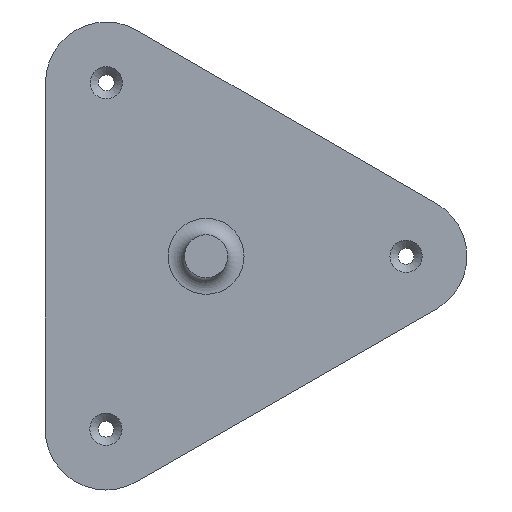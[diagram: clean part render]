
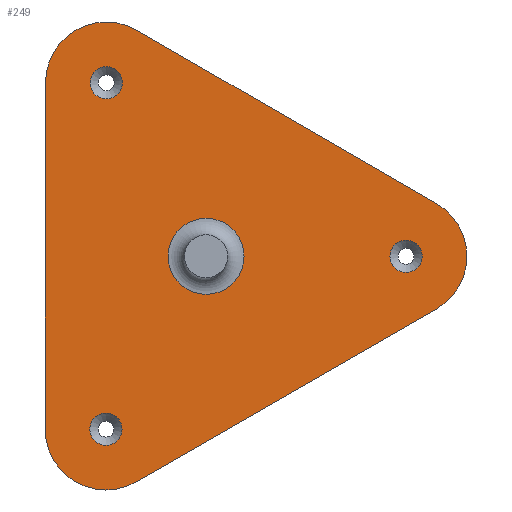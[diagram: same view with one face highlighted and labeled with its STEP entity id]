
A CAD part, front view. The second image highlights one B-rep face of the part: STEP entity #249.
In plain terms, the highlighted planar face has unit normal (0, -1, 0).
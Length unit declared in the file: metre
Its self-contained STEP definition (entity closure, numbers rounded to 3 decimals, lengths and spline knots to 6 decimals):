
#23=LINE('',#411,#35);
#24=LINE('',#415,#36);
#25=LINE('',#419,#37);
#35=VECTOR('',#328,1.);
#36=VECTOR('',#331,1.);
#37=VECTOR('',#334,1.);
#47=ORIENTED_EDGE('',*,*,#107,.T.);
#48=ORIENTED_EDGE('',*,*,#108,.T.);
#49=ORIENTED_EDGE('',*,*,#109,.T.);
#50=ORIENTED_EDGE('',*,*,#110,.T.);
#51=ORIENTED_EDGE('',*,*,#111,.T.);
#52=ORIENTED_EDGE('',*,*,#112,.T.);
#53=ORIENTED_EDGE('',*,*,#113,.F.);
#54=ORIENTED_EDGE('',*,*,#114,.F.);
#55=ORIENTED_EDGE('',*,*,#115,.F.);
#56=ORIENTED_EDGE('',*,*,#116,.F.);
#107=EDGE_CURVE('',#137,#137,#161,.F.);
#108=EDGE_CURVE('',#138,#138,#162,.F.);
#109=EDGE_CURVE('',#139,#139,#163,.F.);
#110=EDGE_CURVE('',#140,#140,#164,.F.);
#111=EDGE_CURVE('',#141,#142,#165,.T.);
#112=EDGE_CURVE('',#142,#143,#23,.T.);
#113=EDGE_CURVE('',#144,#143,#166,.T.);
#114=EDGE_CURVE('',#145,#144,#24,.T.);
#115=EDGE_CURVE('',#146,#145,#167,.T.);
#116=EDGE_CURVE('',#141,#146,#25,.T.);
#137=VERTEX_POINT('',#401);
#138=VERTEX_POINT('',#403);
#139=VERTEX_POINT('',#405);
#140=VERTEX_POINT('',#407);
#141=VERTEX_POINT('',#409);
#142=VERTEX_POINT('',#410);
#143=VERTEX_POINT('',#412);
#144=VERTEX_POINT('',#414);
#145=VERTEX_POINT('',#416);
#146=VERTEX_POINT('',#418);
#161=CIRCLE('',#280,0.00295);
#162=CIRCLE('',#281,0.00295);
#163=CIRCLE('',#282,0.00295);
#164=CIRCLE('',#283,0.00695);
#165=CIRCLE('',#284,0.011127);
#166=CIRCLE('',#285,0.011127);
#167=CIRCLE('',#286,0.011127);
#179=EDGE_LOOP('',(#47));
#180=EDGE_LOOP('',(#48));
#181=EDGE_LOOP('',(#49));
#182=EDGE_LOOP('',(#50));
#183=EDGE_LOOP('',(#51,#52,#53,#54,#55,#56));
#211=FACE_BOUND('',#179,.T.);
#212=FACE_BOUND('',#180,.T.);
#213=FACE_BOUND('',#181,.T.);
#214=FACE_BOUND('',#182,.T.);
#215=FACE_BOUND('',#183,.T.);
#243=PLANE('',#279);
#249=ADVANCED_FACE('',(#211,#212,#213,#214,#215),#243,.T.);
#279=AXIS2_PLACEMENT_3D('',#399,#316,#317);
#280=AXIS2_PLACEMENT_3D('',#400,#318,#319);
#281=AXIS2_PLACEMENT_3D('',#402,#320,#321);
#282=AXIS2_PLACEMENT_3D('',#404,#322,#323);
#283=AXIS2_PLACEMENT_3D('',#406,#324,#325);
#284=AXIS2_PLACEMENT_3D('',#408,#326,#327);
#285=AXIS2_PLACEMENT_3D('',#413,#329,#330);
#286=AXIS2_PLACEMENT_3D('',#417,#332,#333);
#316=DIRECTION('',(0.,-1.,0.));
#317=DIRECTION('',(-1.,0.,0.));
#318=DIRECTION('',(0.,-1.,0.));
#319=DIRECTION('',(0.,0.,-1.));
#320=DIRECTION('',(0.,-1.,0.));
#321=DIRECTION('',(0.,0.,-1.));
#322=DIRECTION('',(0.,-1.,0.));
#323=DIRECTION('',(0.,0.,-1.));
#324=DIRECTION('',(0.,-1.,0.));
#325=DIRECTION('',(0.,0.,-1.));
#326=DIRECTION('',(0.,-1.,0.));
#327=DIRECTION('',(0.,0.,-1.));
#328=DIRECTION('',(-0.866,0.,0.501));
#329=DIRECTION('',(0.,1.,0.));
#330=DIRECTION('',(0.,0.,1.));
#331=DIRECTION('',(0.001,0.,1.));
#332=DIRECTION('',(0.,1.,0.));
#333=DIRECTION('',(0.,0.,1.));
#334=DIRECTION('',(-0.867,0.,-0.499));
#399=CARTESIAN_POINT('',(0.013912,-0.08323,0.000055));
#400=CARTESIAN_POINT('',(-0.018256,-0.08323,0.03173));
#401=CARTESIAN_POINT('',(-0.018256,-0.08323,0.02878));
#402=CARTESIAN_POINT('',(-0.018319,-0.08323,-0.031621));
#403=CARTESIAN_POINT('',(-0.018319,-0.08323,-0.034571));
#404=CARTESIAN_POINT('',(0.036576,-0.08323,0.));
#405=CARTESIAN_POINT('',(0.036576,-0.08323,-0.00295));
#406=CARTESIAN_POINT('',(0.,-0.08323,0.));
#407=CARTESIAN_POINT('',(0.,-0.08323,-0.00695));
#408=CARTESIAN_POINT('',(0.036576,-0.08323,0.));
#409=CARTESIAN_POINT('',(0.04213,-0.08323,-0.009642));
#410=CARTESIAN_POINT('',(0.042149,-0.08323,0.009631));
#411=CARTESIAN_POINT('',(0.014733,-0.08323,0.025496));
#412=CARTESIAN_POINT('',(-0.012683,-0.08323,0.041361));
#413=CARTESIAN_POINT('',(-0.018256,-0.08323,0.03173));
#414=CARTESIAN_POINT('',(-0.029383,-0.08323,0.031741));
#415=CARTESIAN_POINT('',(-0.029415,-0.08323,0.000066));
#416=CARTESIAN_POINT('',(-0.029446,-0.08323,-0.03161));
#417=CARTESIAN_POINT('',(-0.018319,-0.08323,-0.031621));
#418=CARTESIAN_POINT('',(-0.012765,-0.08323,-0.041263));
#419=CARTESIAN_POINT('',(0.014682,-0.08323,-0.025452));
